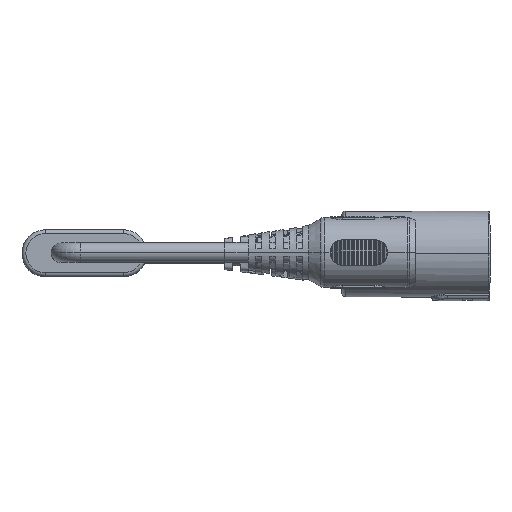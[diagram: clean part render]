
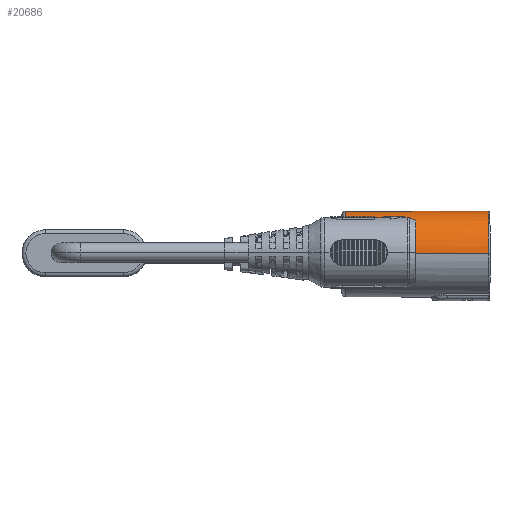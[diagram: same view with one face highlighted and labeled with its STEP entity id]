
A CAD part, top view. The second image highlights one B-rep face of the part: STEP entity #20686.
In plain terms, the highlighted cylindrical face has radius 11 mm (diameter 22 mm), a partial arc.
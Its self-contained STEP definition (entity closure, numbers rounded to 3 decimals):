
#287 = CARTESIAN_POINT ( 'NONE',  ( 55.947, 9.44, 5.569 ) ) ;
#454 = VERTEX_POINT ( 'NONE', #32045 ) ;
#468 = CARTESIAN_POINT ( 'NONE',  ( 51.586, 8.319, 5.834 ) ) ;
#556 = CARTESIAN_POINT ( 'NONE',  ( 57.808, 6.575, -16. ) ) ;
#725 = CARTESIAN_POINT ( 'NONE',  ( 56.853, 8.777, -15.741 ) ) ;
#908 = CARTESIAN_POINT ( 'NONE',  ( 52.365, 9.128, -15.656 ) ) ;
#1643 = FACE_OUTER_BOUND ( 'NONE', #47892, .T. ) ;
#2413 = CARTESIAN_POINT ( 'NONE',  ( 88.108, 6.385, 6. ) ) ;
#2982 = CARTESIAN_POINT ( 'NONE',  ( 57.808, 6.385, -16. ) ) ;
#4182 = CARTESIAN_POINT ( 'NONE',  ( 57.792, 6.765, 5.995 ) ) ;
#4359 = CARTESIAN_POINT ( 'NONE',  ( 55.052, 9.728, 5.48 ) ) ;
#4800 = CARTESIAN_POINT ( 'NONE',  ( 55.947, 9.44, -15.569 ) ) ;
#4977 = CARTESIAN_POINT ( 'NONE',  ( 51.586, 8.319, -15.834 ) ) ;
#7556 = VECTOR ( 'NONE', #24212, 1000. ) ;
#8233 = EDGE_CURVE ( 'NONE', #20368, #45044, #11625, .T. ) ;
#8424 = CARTESIAN_POINT ( 'NONE',  ( 54.489, 9.789, 5.46 ) ) ;
#8859 = CARTESIAN_POINT ( 'NONE',  ( 55.052, 9.728, -15.48 ) ) ;
#9219 = EDGE_CURVE ( 'NONE', #39154, #18751, #14426, .T. ) ;
#9555 = DIRECTION ( 'NONE',  ( 1., 0., 0. ) ) ;
#10790 = ORIENTED_EDGE ( 'NONE', *, *, #49951, .T. ) ;
#11625 = B_SPLINE_CURVE_WITH_KNOTS ( 'NONE', 3,
 ( #12271, #36621, #4182, #40711, #16317, #44783, #20436, #48861, #24541, #287, #28647, #4359, #32706, #8424, #36807, #12438, #40889, #16502, #44965, #20611, #49059, #24729, #468, #28827 ),
 .UNSPECIFIED., .F., .F.,
 ( 4, 2, 2, 2, 2, 2, 2, 2, 2, 2, 2, 4 ),
 ( 0.009, 0.01, 0.01, 0.011, 0.012, 0.014, 0.014, 0.015, 0.015, 0.016, 0.017, 0.018 ),
 .UNSPECIFIED. ) ;
#12271 = CARTESIAN_POINT ( 'NONE',  ( 57.808, 6.385, 6. ) ) ;
#12438 = CARTESIAN_POINT ( 'NONE',  ( 53.922, 9.755, 5.471 ) ) ;
#12507 = ORIENTED_EDGE ( 'NONE', *, *, #13537, .T. ) ;
#12886 = CARTESIAN_POINT ( 'NONE',  ( 54.489, 9.789, -15.46 ) ) ;
#13262 = DIRECTION ( 'NONE',  ( 1., 0., 0. ) ) ;
#13537 = EDGE_CURVE ( 'NONE', #18751, #45044, #48067, .T. ) ;
#14426 = B_SPLINE_CURVE_WITH_KNOTS ( 'NONE', 3,
 ( #32957, #556, #16771, #45224, #20882, #49309, #24993, #725, #29081, #4800, #33143, #8859, #37231, #12886, #41327, #16946, #45399, #21059, #49479, #25166, #908, #29253, #4977, #33323 ),
 .UNSPECIFIED., .F., .F.,
 ( 4, 2, 2, 2, 2, 2, 2, 2, 2, 2, 2, 4 ),
 ( 0.009, 0.01, 0.01, 0.011, 0.012, 0.014, 0.014, 0.015, 0.015, 0.016, 0.017, 0.018 ),
 .UNSPECIFIED. ) ;
#15086 = CARTESIAN_POINT ( 'NONE',  ( 88.108, 6.385, -5. ) ) ;
#16317 = CARTESIAN_POINT ( 'NONE',  ( 57.683, 7.318, 5.962 ) ) ;
#16502 = CARTESIAN_POINT ( 'NONE',  ( 53.371, 9.628, 5.511 ) ) ;
#16771 = CARTESIAN_POINT ( 'NONE',  ( 57.792, 6.765, -15.995 ) ) ;
#16946 = CARTESIAN_POINT ( 'NONE',  ( 53.922, 9.755, -15.471 ) ) ;
#18132 = CARTESIAN_POINT ( 'NONE',  ( 51.408, 7.985, 5.883 ) ) ;
#18751 = VERTEX_POINT ( 'NONE', #41663 ) ;
#19219 = DIRECTION ( 'NONE',  ( 0., 0., 1. ) ) ;
#20368 = VERTEX_POINT ( 'NONE', #49990 ) ;
#20436 = CARTESIAN_POINT ( 'NONE',  ( 57.318, 8.184, 5.856 ) ) ;
#20611 = CARTESIAN_POINT ( 'NONE',  ( 52.676, 9.335, 5.598 ) ) ;
#20631 = CYLINDRICAL_SURFACE ( 'NONE', #45165, 11. ) ;
#20686 = ADVANCED_FACE ( 'NONE', ( #1643 ), #20631, .T. ) ;
#20882 = CARTESIAN_POINT ( 'NONE',  ( 57.683, 7.318, -15.962 ) ) ;
#21059 = CARTESIAN_POINT ( 'NONE',  ( 53.371, 9.628, -15.511 ) ) ;
#24040 = AXIS2_PLACEMENT_3D ( 'NONE', #33866, #9555, #37959 ) ;
#24212 = DIRECTION ( 'NONE',  ( 1., 0., 0. ) ) ;
#24541 = CARTESIAN_POINT ( 'NONE',  ( 56.578, 9.029, 5.68 ) ) ;
#24729 = CARTESIAN_POINT ( 'NONE',  ( 51.814, 8.614, 5.775 ) ) ;
#24993 = CARTESIAN_POINT ( 'NONE',  ( 57.318, 8.184, -15.856 ) ) ;
#25166 = CARTESIAN_POINT ( 'NONE',  ( 52.676, 9.335, -15.598 ) ) ;
#28197 = CIRCLE ( 'NONE', #43495, 11. ) ;
#28620 = EDGE_CURVE ( 'NONE', #39154, #454, #44260, .T. ) ;
#28647 = CARTESIAN_POINT ( 'NONE',  ( 55.603, 9.59, 5.523 ) ) ;
#28827 = CARTESIAN_POINT ( 'NONE',  ( 51.408, 7.985, 5.883 ) ) ;
#29081 = CARTESIAN_POINT ( 'NONE',  ( 56.578, 9.029, -15.68 ) ) ;
#29253 = CARTESIAN_POINT ( 'NONE',  ( 51.814, 8.614, -15.775 ) ) ;
#30367 = LINE ( 'NONE', #52593, #7556 ) ;
#30911 = VECTOR ( 'NONE', #13262, 1000. ) ;
#32045 = CARTESIAN_POINT ( 'NONE',  ( 88.108, 6.385, -16. ) ) ;
#32376 = CARTESIAN_POINT ( 'NONE',  ( 50.408, 6.385, -5. ) ) ;
#32706 = CARTESIAN_POINT ( 'NONE',  ( 54.864, 9.759, 5.47 ) ) ;
#32752 = ORIENTED_EDGE ( 'NONE', *, *, #8233, .F. ) ;
#32957 = CARTESIAN_POINT ( 'NONE',  ( 57.808, 6.385, -16. ) ) ;
#33143 = CARTESIAN_POINT ( 'NONE',  ( 55.603, 9.59, -15.523 ) ) ;
#33323 = CARTESIAN_POINT ( 'NONE',  ( 51.408, 7.985, -15.883 ) ) ;
#33549 = CARTESIAN_POINT ( 'NONE',  ( 50.408, 6.385, -16. ) ) ;
#33866 = CARTESIAN_POINT ( 'NONE',  ( 51.408, 6.385, -5. ) ) ;
#36621 = CARTESIAN_POINT ( 'NONE',  ( 57.808, 6.575, 6. ) ) ;
#36807 = CARTESIAN_POINT ( 'NONE',  ( 54.301, 9.788, 5.46 ) ) ;
#37231 = CARTESIAN_POINT ( 'NONE',  ( 54.864, 9.759, -15.47 ) ) ;
#37959 = DIRECTION ( 'NONE',  ( 0., 0., 1. ) ) ;
#38547 = ORIENTED_EDGE ( 'NONE', *, *, #9219, .T. ) ;
#39154 = VERTEX_POINT ( 'NONE', #2982 ) ;
#40198 = DIRECTION ( 'NONE',  ( 1., 0., 0. ) ) ;
#40711 = CARTESIAN_POINT ( 'NONE',  ( 57.73, 7.135, 5.976 ) ) ;
#40889 = CARTESIAN_POINT ( 'NONE',  ( 53.735, 9.722, 5.481 ) ) ;
#41327 = CARTESIAN_POINT ( 'NONE',  ( 54.301, 9.788, -15.46 ) ) ;
#41663 = CARTESIAN_POINT ( 'NONE',  ( 51.408, 7.985, -15.883 ) ) ;
#43495 = AXIS2_PLACEMENT_3D ( 'NONE', #15086, #43539, #19219 ) ;
#43539 = DIRECTION ( 'NONE',  ( -1., 0., 0. ) ) ;
#44001 = ORIENTED_EDGE ( 'NONE', *, *, #47001, .T. ) ;
#44260 = LINE ( 'NONE', #33549, #30911 ) ;
#44783 = CARTESIAN_POINT ( 'NONE',  ( 57.497, 7.855, 5.907 ) ) ;
#44965 = CARTESIAN_POINT ( 'NONE',  ( 53.194, 9.566, 5.53 ) ) ;
#45044 = VERTEX_POINT ( 'NONE', #18132 ) ;
#45135 = VERTEX_POINT ( 'NONE', #2413 ) ;
#45165 = AXIS2_PLACEMENT_3D ( 'NONE', #32376, #40198, #52579 ) ;
#45224 = CARTESIAN_POINT ( 'NONE',  ( 57.73, 7.135, -15.976 ) ) ;
#45283 = ORIENTED_EDGE ( 'NONE', *, *, #28620, .F. ) ;
#45399 = CARTESIAN_POINT ( 'NONE',  ( 53.735, 9.722, -15.481 ) ) ;
#47001 = EDGE_CURVE ( 'NONE', #20368, #45135, #30367, .T. ) ;
#47892 = EDGE_LOOP ( 'NONE', ( #32752, #44001, #10790, #45283, #38547, #12507 ) ) ;
#48067 = CIRCLE ( 'NONE', #24040, 11. ) ;
#48861 = CARTESIAN_POINT ( 'NONE',  ( 56.853, 8.777, 5.741 ) ) ;
#49059 = CARTESIAN_POINT ( 'NONE',  ( 52.365, 9.128, 5.656 ) ) ;
#49309 = CARTESIAN_POINT ( 'NONE',  ( 57.497, 7.855, -15.907 ) ) ;
#49479 = CARTESIAN_POINT ( 'NONE',  ( 53.194, 9.566, -15.53 ) ) ;
#49951 = EDGE_CURVE ( 'NONE', #45135, #454, #28197, .T. ) ;
#49990 = CARTESIAN_POINT ( 'NONE',  ( 57.808, 6.385, 6. ) ) ;
#52579 = DIRECTION ( 'NONE',  ( 0., 0., -1. ) ) ;
#52593 = CARTESIAN_POINT ( 'NONE',  ( 50.408, 6.385, 6. ) ) ;
